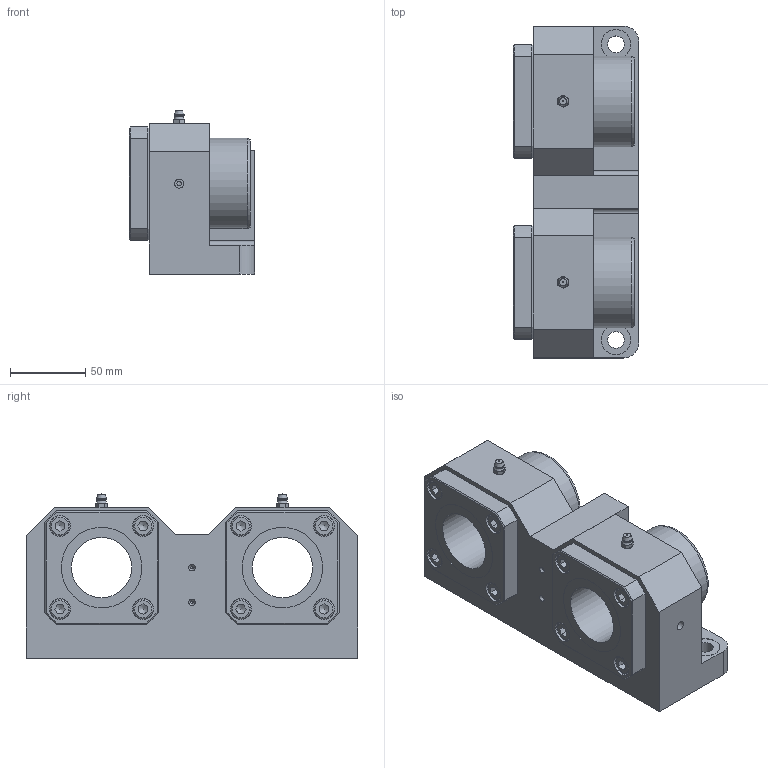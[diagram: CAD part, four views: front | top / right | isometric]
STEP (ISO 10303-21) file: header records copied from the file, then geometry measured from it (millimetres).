
FILE_DESCRIPTION((''),'2;1');
FILE_NAME('D:\製品 (図面)\カタログ用3D\リニアベアリング関連\STEP形式\LUF\LUF40.stp','2010-07-29T14:30:24',('Tsuchiya'),(''),'Autodesk Inventor 10','Autodesk Inventor 10','');
FILE_SCHEMA(('AUTOMOTIVE_DESIGN { 1 0 10303 214 1 1 1 1 }'));
Length unit declared in the file: millimetre
Products named in the file (4): LUF40; LUF401; LUF402; LUF403
Assembly tree (3 placements, depth 2):
  LUF40
    LUF401
    LUF402
    LUF403
Bounding box: 83 x 220 x 108.8 mm (x, y, z)
Volume: 1086278.5 mm3; surface area: 176815.8 mm2
Topology: 13 solids, 13 shells, 358 faces, 786 edges, 494 vertices
Faces by surface type: plane 156, cylinder 82, cone 68, bspline 38, torus 10, sphere 4
Full cylindrical faces by diameter (mm): 2 x2, 3 x3, 6 x4, 8 x12, 9 x8, 11 x1, 13 x8, 14 x8, 19.5 x1, 40 x2, 53.4 x4, 60 x5
Entity records: 10803 total; most frequent: CARTESIAN_POINT 3995, DIRECTION 1336, ORIENTED_EDGE 1200, EDGE_CURVE 600, EDGE_LOOP 574, AXIS2_PLACEMENT_3D 565, VERTEX_POINT 448, FACE_OUTER_BOUND 358
